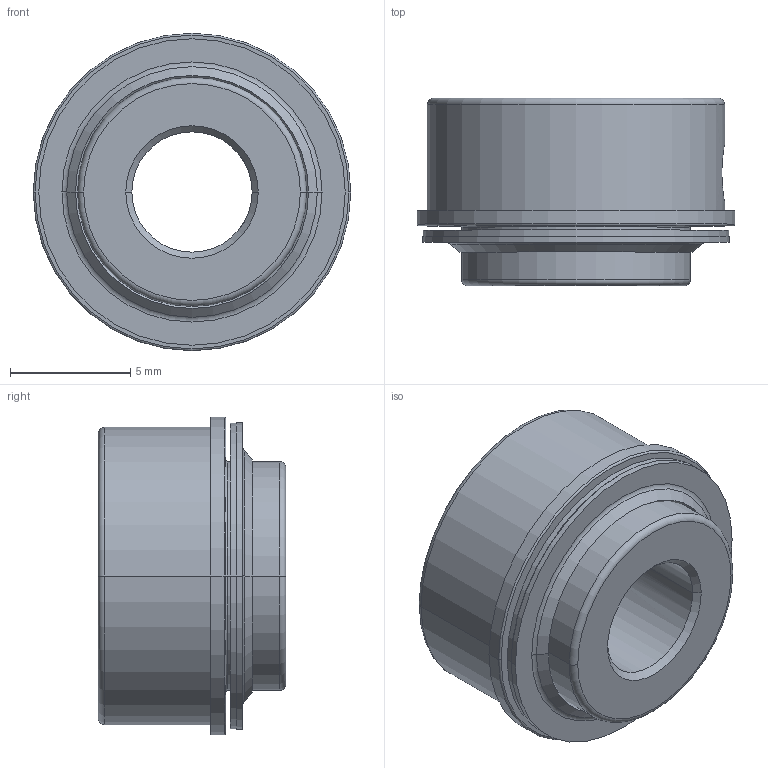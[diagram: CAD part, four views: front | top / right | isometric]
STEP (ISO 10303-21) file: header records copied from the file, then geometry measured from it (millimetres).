
FILE_DESCRIPTION (( 'STEP AP214' ), '1' );
FILE_NAME ('drawing-flange-vcd-de5.STEP', '2021-07-20T14:36:21', ( '' ), ( '' ), 'SwSTEP 2.0', 'SolidWorks 2019', '' );
FILE_SCHEMA (( 'AUTOMOTIVE_DESIGN' ));
Length unit declared in the file: inch
Products named in the file (2): drawing-flange-vcd-de5
Bounding box: 13.21 x 7.8 x 13.21 mm (x, y, z)
Volume: 696.9 mm3; surface area: 958.9 mm2
Topology: 4 solids, 4 shells, 118 faces, 256 edges, 143 vertices
Faces by surface type: cone 47, cylinder 38, plane 21, torus 12
Entity records: 5242 total; most frequent: CARTESIAN_POINT 1097, DIRECTION 550, ORIENTED_EDGE 504, EDGE_CURVE 252, AXIS2_PLACEMENT_3D 230, VERTEX_POINT 143, EDGE_LOOP 127, LENGTH_MEASURE_WITH_UNIT 124
